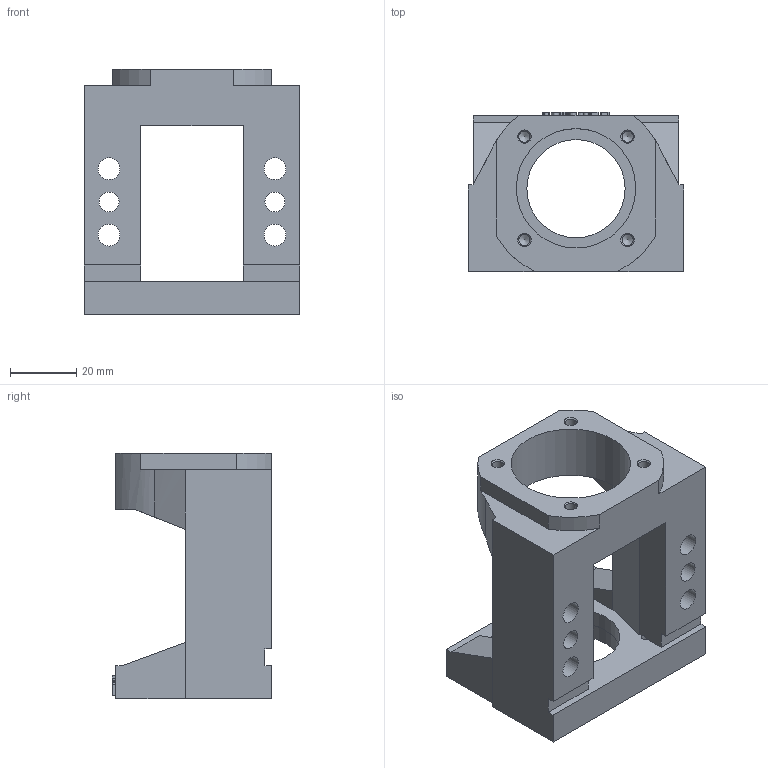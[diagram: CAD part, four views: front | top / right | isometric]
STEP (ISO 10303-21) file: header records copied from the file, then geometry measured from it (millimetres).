
FILE_DESCRIPTION(/* description */ (''),/* implementation_level */ '2;1');
FILE_NAME(/* name */ 'M38A-FK12-A.stp',/* time_stamp */ '2016-10-27T09:58:09+08:00',/* author */ (''),/* organization */ (''),/* preprocessor_version */ 'ST-DEVELOPER v15',/* originating_system */ 'SIEMENS PLM Software NX 8.5',/* authorisation */ '');
FILE_SCHEMA (('CONFIG_CONTROL_DESIGN'));
Length unit declared in the file: millimetre
Products named in the file (1): MBA12-A
Bounding box: 65 x 48 x 74 mm (x, y, z)
Volume: 84355.9 mm3; surface area: 26638.3 mm2
Topology: 1 solids, 1 shells, 186 faces, 508 edges, 336 vertices
Faces by surface type: plane 102, extrusion 41, cylinder 29, cone 14
Full cylindrical faces by diameter (mm): 2.6 x4, 3.3 x4, 6 x2, 6.6 x6, 11 x4, 29.6 x1, 30 x1, 36 x1
Entity records: 6182 total; most frequent: CARTESIAN_POINT 1925, ORIENTED_EDGE 898, DIRECTION 662, EDGE_CURVE 449, VERTEX_POINT 320, EDGE_LOOP 261, VECTOR 234, B_SPLINE_CURVE_WITH_KNOTS 225
